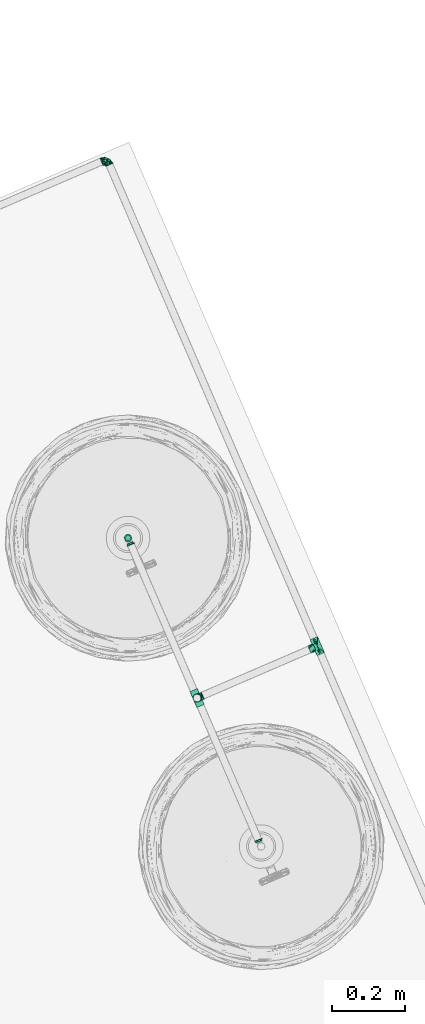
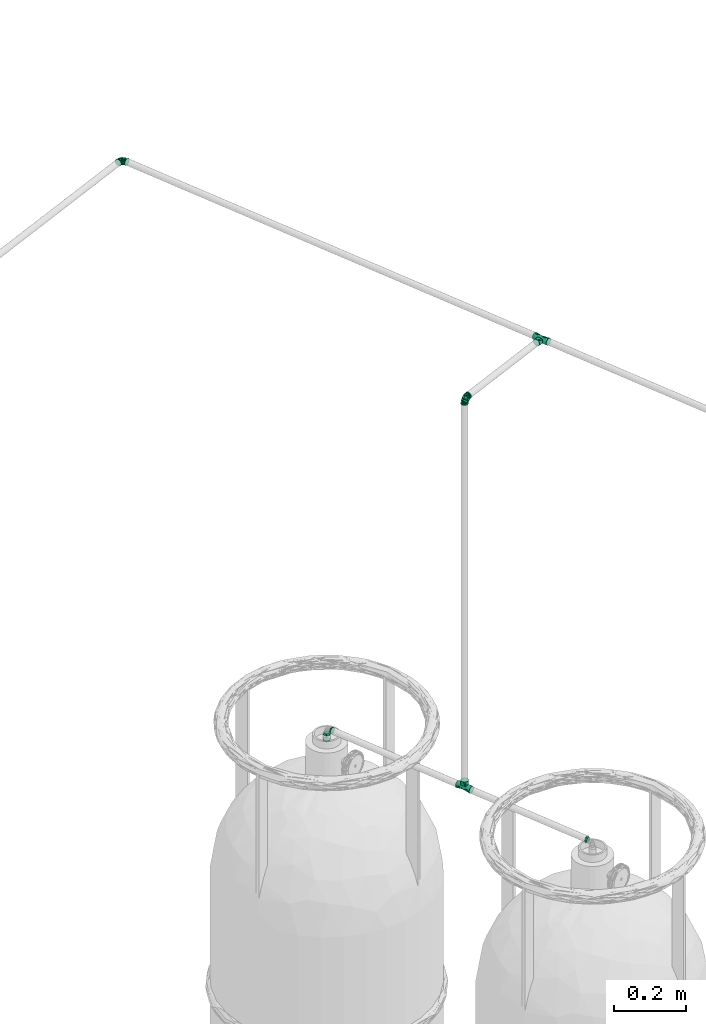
# One storey, part 22 of 26: 8 pipe fittings.
"""IFC4 building model written with IfcOpenShell, lengths in metres."""

from ifc_helpers import new_model, entity, si_unit, converted_unit, derived_unit, direction, frame, origin, place, context, subcontext, project, spatial, polygons, source, transform, mapped, material, type_object, type_shapes, element, save


model = new_model("IFC4")

# Units and contexts
model_context = context("Model", 3, precision=1e-05, world=origin(), true_north=direction((6.12323399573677e-17, 1.0)))
body_context = subcontext(model_context, "Body", "Model", "MODEL_VIEW")
ifc_project = project(units=[si_unit("LENGTHUNIT", "METRE"), si_unit("AREAUNIT", "SQUARE_METRE"), si_unit("VOLUMEUNIT", "CUBIC_METRE"), si_unit("PRESSUREUNIT", "PASCAL"), derived_unit("VOLUMETRICFLOWRATEUNIT", [(si_unit("LENGTHUNIT", "METRE", prefix="DECI"), 3), (si_unit("TIMEUNIT", "SECOND"), -1)]), converted_unit("PLANEANGLEUNIT", "DEGREE", entity("IfcPlaneAngleMeasure", 0.0174532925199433), si_unit("PLANEANGLEUNIT", "RADIAN"), dimensions=[0, 0, 0, 0, 0, 0, 0])], contexts=[model_context])

# Site, building, storey
site_placement = place(None, origin())
site = spatial("IfcSite", under=ifc_project, at=site_placement, Name="Default", CompositionType="ELEMENT")
building_placement = place(site_placement, frame((24.575451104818, -55.896759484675, 317.15), z_axis=(0.0, 0.0, 1.0), x_axis=(-0.396377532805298, 0.918087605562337, 0.0)))
building = spatial("IfcBuilding", under=site, at=building_placement, CompositionType="ELEMENT")
storey_placement = place(building_placement, origin())
storey = spatial("IfcBuildingStorey", under=building, at=storey_placement, Name="Nivel 1", CompositionType="ELEMENT", Elevation=0.0)

# Pipe fittings
ifc_material = material(Name="<Unnamed>")
pipe_fitting_type_1 = type_object("IfcPipeFittingType", Name="M_Codo - Genérico:Norma", PredefinedType="NOTDEFINED", material=ifc_material)
shared_shape_1 = source(origin(), body_context, "Body", "Tessellation", [
    polygons([(-0.0174624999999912, -0.0111125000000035, -1.903728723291e-15), (-0.0174624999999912, -0.0107338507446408, 0.00287612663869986), (-0.0174624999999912, -0.0096237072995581, 0.0055562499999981), (-0.0174624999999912, -0.00785772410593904, 0.00785772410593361), (-0.0174624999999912, -0.00555625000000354, 0.00962370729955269), (-0.0174624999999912, -0.00287612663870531, 0.0107338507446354), (-0.0174624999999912, -3.55315776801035e-15, 0.0111124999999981), (-0.0174624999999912, 0.00287612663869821, 0.0107338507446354), (-0.0174624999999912, 0.00555624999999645, 0.00962370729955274), (-0.0174624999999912, 0.00785772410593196, 0.00785772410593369), (-0.0174624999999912, 0.00962370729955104, 0.00555624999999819), (-0.0174624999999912, 0.0107338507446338, 0.00287612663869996), (-0.0174624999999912, 0.0111124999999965, -1.86782324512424e-15), (-0.0174624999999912, 0.0107338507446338, -0.00287612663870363), (-0.0174624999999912, 0.00962370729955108, -0.00555625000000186), (-0.0174624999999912, 0.00785772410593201, -0.00785772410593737), (-0.0174624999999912, 0.00555624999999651, -0.00962370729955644), (-0.0174624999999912, 0.00287612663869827, -0.0107338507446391), (-0.0174624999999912, -3.48759354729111e-15, -0.0111125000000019), (-0.0174624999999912, -0.00287612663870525, -0.0107338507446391), (-0.0174624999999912, -0.00555625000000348, -0.00962370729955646), (-0.0174624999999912, -0.00785772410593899, -0.0078577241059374), (-0.0174624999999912, -0.00962370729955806, -0.00555625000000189), (-0.0174624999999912, -0.0107338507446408, -0.00287612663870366), (0.0111125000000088, 0.0174624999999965, -1.89879378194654e-15), (0.010733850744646, 0.0174624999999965, -0.00287612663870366), (0.00962370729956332, 0.0174624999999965, -0.00555625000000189), (0.00785772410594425, 0.0174624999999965, -0.0078577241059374), (0.00555625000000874, 0.0174624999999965, -0.00962370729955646), (0.0028761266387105, 0.0174624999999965, -0.0107338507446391), (8.74542105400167e-15, 0.0174624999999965, -0.0111125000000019), (-0.00287612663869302, 0.0174624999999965, -0.0107338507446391), (-0.00555624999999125, 0.0174624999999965, -0.00962370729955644), (-0.00785772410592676, 0.0174624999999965, -0.00785772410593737), (-0.00962370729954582, 0.0174624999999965, -0.00555625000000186), (-0.0107338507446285, 0.0174624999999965, -0.00287612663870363), (-0.0111124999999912, 0.0174624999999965, -1.80588217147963e-15), (-0.0107338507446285, 0.0174624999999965, 0.00287612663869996), (-0.00962370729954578, 0.0174624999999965, 0.00555624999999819), (-0.00785772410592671, 0.0174624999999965, 0.00785772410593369), (-0.00555624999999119, 0.0174624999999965, 0.00962370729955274), (-0.00287612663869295, 0.0174624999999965, 0.0107338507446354), (8.81098527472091e-15, 0.0174624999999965, 0.0111124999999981), (0.00287612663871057, 0.0174624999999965, 0.0107338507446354), (0.0055562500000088, 0.0174624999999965, 0.00962370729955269), (0.0078577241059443, 0.0174624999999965, 0.00785772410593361), (0.00962370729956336, 0.0174624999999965, 0.0055562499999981), (0.010733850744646, 0.0174624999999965, 0.00287612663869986), (-0.0129723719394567, 0.0129723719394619, -1.79601228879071e-15), (-0.00317499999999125, -0.00728417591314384, -1.903728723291e-15), (0.00728417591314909, 0.00317499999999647, -1.903728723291e-15), (-0.0100511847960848, -0.00912664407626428, -1.903728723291e-15), (0.00912664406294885, 0.0100511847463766, -1.903728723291e-15), (-0.013756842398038, -0.0101195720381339, -1.903728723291e-15), (0.0101195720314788, 0.0137568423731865, -1.903728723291e-15), (-0.0156096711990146, -0.0106160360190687, -1.903728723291e-15), (0.0106160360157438, 0.0156096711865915, -1.903728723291e-15), (0.00205458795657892, -0.00205458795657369, -1.903728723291e-15), (-0.00555538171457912, 0.00884629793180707, 0.0107630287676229), (-0.00691389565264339, 0.00169494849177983, 0.011009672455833), (0.00190822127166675, 0.00896555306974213, 0.0104820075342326), (-0.00661309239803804, -0.00820540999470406, -1.903728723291e-15), (-0.00947063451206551, -0.00404538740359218, 0.00966608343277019), (0.00557118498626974, 0.0106586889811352, 0.00897323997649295), (-0.0129388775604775, 0.00860307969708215, 0.00818609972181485), (-0.00836753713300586, 0.00728984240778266, 0.0104364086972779), (-0.00044279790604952, 0.00110833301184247, 0.00926146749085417), (0.004669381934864, 0.00056020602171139, -1.903728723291e-15), (0.00194294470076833, 0.00415442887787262, 0.00930962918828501), (-0.000560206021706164, -0.00466938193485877, -1.903728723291e-15), (0.00820540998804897, 0.00661309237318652, -1.903728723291e-15), (-0.0055553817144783, 0.00884629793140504, -0.0107630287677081), (-0.00691389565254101, 0.00169494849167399, -0.0110096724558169), (0.0019082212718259, 0.00896555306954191, -0.0104820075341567), (-0.00947063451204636, -0.00404538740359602, -0.0096660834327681), (0.00557118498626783, 0.0106586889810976, -0.00897323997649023), (-0.012938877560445, 0.00860307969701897, -0.00818609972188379), (-0.00836753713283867, 0.00728984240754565, -0.010436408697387), (-0.000442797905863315, 0.00110833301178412, -0.00926146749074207), (0.00194294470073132, 0.00415442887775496, -0.00930962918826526)], [[[17, 18, 19, 20, 21, 22, 23, 24, 1, 2, 3, 4, 5, 6, 7, 8, 9, 10, 11, 12, 13, 14, 15, 16]], [[31, 32, 33, 34, 35, 36, 37, 38, 39, 40, 41, 42, 43, 44, 45, 46, 47, 48, 25, 26, 27, 28, 29, 30]], [[2, 56, 3]], [[6, 62, 7]], [[67, 69, 59]], [[39, 61, 40]], [[52, 5, 4]], [[3, 54, 4]], [[10, 63, 60]], [[5, 52, 6]], [[62, 50, 63]], [[63, 9, 8]], [[59, 66, 67]], [[6, 52, 62]], [[62, 63, 7]], [[63, 8, 7]], [[66, 65, 60]], [[44, 64, 53]], [[13, 12, 65]], [[64, 51, 71, 53]], [[2, 1, 56]], [[66, 49, 65]], [[63, 10, 9]], [[60, 50, 70]], [[49, 13, 65]], [[60, 70, 67]], [[51, 64, 61]], [[43, 64, 44]], [[53, 45, 44]], [[61, 69, 51]], [[42, 64, 43]], [[50, 60, 63]], [[55, 46, 53]], [[67, 70, 58, 68]], [[53, 46, 45]], [[51, 69, 68]], [[48, 57, 25]], [[11, 60, 65]], [[69, 61, 59]], [[52, 4, 54]], [[38, 37, 59]], [[67, 68, 69]], [[49, 59, 37]], [[55, 47, 46]], [[38, 59, 39]], [[47, 57, 48]], [[61, 41, 40]], [[56, 54, 3]], [[39, 59, 61]], [[55, 57, 47]], [[61, 64, 41]], [[41, 64, 42]], [[60, 11, 10]], [[60, 67, 66]], [[11, 65, 12]], [[49, 66, 59]], [[62, 19, 75]], [[68, 80, 51]], [[79, 78, 72]], [[73, 75, 16]], [[77, 78, 73]], [[35, 34, 74]], [[73, 16, 15]], [[58, 70, 79, 68]], [[14, 13, 77]], [[78, 49, 72]], [[49, 78, 77]], [[77, 73, 15]], [[56, 1, 24]], [[79, 70, 73]], [[22, 52, 54]], [[20, 19, 62]], [[72, 74, 80]], [[52, 22, 21]], [[21, 20, 52]], [[16, 75, 17]], [[68, 79, 80]], [[52, 20, 62]], [[72, 49, 37]], [[50, 73, 70]], [[37, 36, 72]], [[73, 78, 79]], [[53, 28, 55]], [[35, 72, 36]], [[51, 80, 74]], [[54, 23, 22]], [[76, 33, 32]], [[57, 55, 27]], [[54, 56, 23]], [[33, 74, 34]], [[23, 56, 24]], [[31, 76, 32]], [[53, 76, 30]], [[15, 14, 77]], [[29, 28, 53]], [[53, 30, 29]], [[30, 76, 31]], [[76, 74, 33]], [[27, 26, 57]], [[75, 19, 18]], [[51, 74, 76]], [[35, 74, 72]], [[18, 17, 75]], [[27, 55, 28]], [[50, 75, 73]], [[26, 25, 57]], [[76, 53, 71, 51]], [[75, 50, 62]], [[13, 49, 77]], [[80, 79, 72]]], closed=True),
])
type_shapes(pipe_fitting_type_1, [shared_shape_1])
pipe_fitting_1_placement = place(storey_placement, frame((22.0687146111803, 38.0573549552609, 3.0), z_axis=(1.0, 0.0, 0.0), x_axis=(0.0, 0.0, 1.0)))
element("IfcPipeFitting", 1, at=pipe_fitting_1_placement, inside=storey, type_object=pipe_fitting_type_1, material=ifc_material, Name="M_Codo - Genérico:Norma", ObjectType="M_Codo - Genérico:Norma", PredefinedType="NOTDEFINED", context=body_context, shape_type="MappedRepresentation", body=[
    mapped(shared_shape_1, transform((0.0, 0.0, 0.0), scale=1.0)),
])
pipe_fitting_2_placement = place(storey_placement, frame((23.5212669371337, 37.6988315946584, 3.0)))
element("IfcPipeFitting", 2, at=pipe_fitting_2_placement, inside=storey, type_object=pipe_fitting_type_1, material=ifc_material, Name="M_Codo - Genérico:Norma", ObjectType="M_Codo - Genérico:Norma", PredefinedType="NOTDEFINED", context=body_context, shape_type="MappedRepresentation", body=[
    mapped(shared_shape_1, transform((0.0, 0.0, 0.0), scale=1.0)),
])
pipe_fitting_type_2 = type_object("IfcPipeFittingType", Name="M_Te - Genérica:Norma", PredefinedType="NOTDEFINED", material=ifc_material)
shared_shape_2 = source(origin(), body_context, "Body", "Tessellation", [
    polygons([(-0.0238124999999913, -0.0111125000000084, -1.903728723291e-15), (-0.0238124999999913, -0.0107338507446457, 0.00287612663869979), (-0.0238124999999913, -0.00962370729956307, 0.00555624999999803), (-0.0238124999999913, -0.00785772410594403, 0.00785772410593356), (-0.0238124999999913, -0.00555625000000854, 0.00962370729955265), (-0.0238124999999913, -0.00287612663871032, 0.0107338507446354), (-0.0238124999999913, -8.56023581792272e-15, 0.0111124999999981), (-0.0238124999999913, 0.0028761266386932, 0.0107338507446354), (-0.0238124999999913, 0.00555624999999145, 0.00962370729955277), (-0.0238124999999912, 0.00785772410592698, 0.00785772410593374), (-0.0238124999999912, 0.00962370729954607, 0.00555624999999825), (-0.0238124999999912, 0.0107338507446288, 0.00287612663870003), (-0.0238124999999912, 0.0111124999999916, -1.79601228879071e-15), (-0.0238124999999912, 0.0107338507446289, -0.00287612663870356), (-0.0238124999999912, 0.00962370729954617, -0.0055562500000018), (-0.0238124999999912, 0.00785772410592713, -0.00785772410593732), (-0.0238124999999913, 0.00555624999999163, -0.0096237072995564), (-0.0238124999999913, 0.00287612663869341, -0.0107338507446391), (-0.0238124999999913, -8.35739460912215e-15, -0.0111125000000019), (-0.0238124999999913, -0.00287612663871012, -0.0107338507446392), (-0.0238124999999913, -0.00555625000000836, -0.00962370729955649), (-0.0238124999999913, -0.00785772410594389, -0.00785772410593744), (-0.0238124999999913, -0.00962370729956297, -0.00555625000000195), (-0.0238124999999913, -0.0107338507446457, -0.00287612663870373), (0.0238125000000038, -0.0111125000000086, -1.97060473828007e-15), (0.0238125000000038, -0.0107338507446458, -0.00287612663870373), (0.0238125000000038, -0.00962370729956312, -0.00555625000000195), (0.0238125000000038, -0.00785772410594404, -0.00785772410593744), (0.0238125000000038, -0.00555625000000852, -0.00962370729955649), (0.0238125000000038, -0.00287612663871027, -0.0107338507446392), (0.0238125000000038, -8.51041926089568e-15, -0.0111125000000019), (0.0238125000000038, 0.00287612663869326, -0.0107338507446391), (0.0238125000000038, 0.00555624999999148, -0.0096237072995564), (0.0238125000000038, 0.00785772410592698, -0.00785772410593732), (0.0238125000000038, 0.00962370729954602, -0.0055562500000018), (0.0238125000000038, 0.0107338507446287, -0.00287612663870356), (0.0238125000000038, 0.0111124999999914, -1.7367929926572e-15), (0.0238125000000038, 0.0107338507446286, 0.00287612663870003), (0.0238125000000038, 0.00962370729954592, 0.00555624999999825), (0.0238125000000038, 0.00785772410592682, 0.00785772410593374), (0.0238125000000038, 0.0055562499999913, 0.00962370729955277), (0.0238125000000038, 0.00287612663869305, 0.0107338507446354), (0.0238125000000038, -8.71326046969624e-15, 0.0111124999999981), (0.0238125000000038, -0.00287612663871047, 0.0107338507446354), (0.0238125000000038, -0.00555625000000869, 0.00962370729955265), (0.0238125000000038, -0.00785772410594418, 0.00785772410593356), (0.0238125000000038, -0.00962370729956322, 0.00555624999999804), (0.0238125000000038, -0.0107338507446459, 0.00287612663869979), (-0.0111124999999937, -0.0111125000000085, -1.903728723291e-15), (-0.0107094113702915, -0.0107094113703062, 0.00296583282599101), (-0.00961793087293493, -0.00961793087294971, 0.00556624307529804), (-0.00806374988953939, -0.00806374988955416, 0.00764614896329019), (-0.00622834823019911, -0.00622834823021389, 0.00920300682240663), (-0.00422731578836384, -0.00422731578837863, 0.0102770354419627), (-0.0021338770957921, -0.00213387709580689, 0.0109056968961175), (6.2730154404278e-15, -8.61700837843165e-15, 0.0111124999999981), (0.00213387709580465, -0.00213387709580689, 0.0109056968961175), (0.0042273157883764, -0.00422731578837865, 0.0102770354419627), (0.00622834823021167, -0.00622834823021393, 0.00920300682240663), (0.00806374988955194, -0.0080637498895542, 0.0076461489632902), (0.00961793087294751, -0.00961793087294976, 0.00556624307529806), (0.010709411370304, -0.0107094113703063, 0.00296583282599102), (0.0111125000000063, -0.0111125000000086, -1.89879378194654e-15), (0.010709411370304, -0.0107094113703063, -0.00296583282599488), (0.00961793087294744, -0.00961793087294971, -0.00556624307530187), (0.00806374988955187, -0.00806374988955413, -0.00764614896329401), (0.00622834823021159, -0.00622834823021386, -0.00920300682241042), (0.00422731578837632, -0.00422731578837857, -0.0102770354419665), (0.00213387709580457, -0.00213387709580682, -0.0109056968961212), (6.2730154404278e-15, -8.46351658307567e-15, -0.0111125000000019), (-0.00213387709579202, -0.0021338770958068, -0.0109056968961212), (-0.00422731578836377, -0.00422731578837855, -0.0102770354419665), (-0.00622834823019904, -0.00622834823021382, -0.00920300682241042), (-0.00806374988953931, -0.00806374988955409, -0.007646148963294), (-0.00961793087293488, -0.00961793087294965, -0.00556624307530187), (-0.0107094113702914, -0.0107094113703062, -0.00296583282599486), (-0.0111124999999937, -0.0238125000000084, -1.89879378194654e-15), (-0.010733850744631, -0.0238125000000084, -0.00287612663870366), (-0.00962370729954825, -0.0238125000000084, -0.00555625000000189), (-0.00785772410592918, -0.0238125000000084, -0.0078577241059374), (-0.00555624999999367, -0.0238125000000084, -0.00962370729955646), (-0.00287612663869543, -0.0238125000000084, -0.0107338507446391), (6.32632078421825e-15, -0.0238125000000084, -0.0111125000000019), (0.00287612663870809, -0.0238125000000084, -0.0107338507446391), (0.00555625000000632, -0.0238125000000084, -0.00962370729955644), (0.00785772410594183, -0.0238125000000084, -0.00785772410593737), (0.00962370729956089, -0.0238125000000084, -0.00555625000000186), (0.0107338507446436, -0.0238125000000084, -0.00287612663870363), (0.0111125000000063, -0.0238125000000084, -1.7367929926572e-15), (0.0107338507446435, -0.0238125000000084, 0.00287612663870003), (0.00962370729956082, -0.0238125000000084, 0.00555624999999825), (0.00785772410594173, -0.0238125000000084, 0.00785772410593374), (0.0055562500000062, -0.0238125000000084, 0.00962370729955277), (0.00287612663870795, -0.0238125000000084, 0.0107338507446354), (6.19035559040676e-15, -0.0238125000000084, 0.0111124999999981), (-0.00287612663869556, -0.0238125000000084, 0.0107338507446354), (-0.00555624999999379, -0.0238125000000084, 0.00962370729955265), (-0.00785772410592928, -0.0238125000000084, 0.00785772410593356), (-0.00962370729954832, -0.0238125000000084, 0.00555624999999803), (-0.010733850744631, -0.0238125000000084, 0.00287612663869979)], [[[19, 20, 21, 22, 23, 24, 1, 2, 3, 4, 5, 6, 7, 8, 9, 10, 11, 12, 13, 14, 15, 16, 17, 18]], [[32, 33, 34, 35, 36, 37, 38, 39, 40, 41, 42, 43, 44, 45, 46, 47, 48, 25, 26, 27, 28, 29, 30, 31]], [[25, 48, 63]], [[49, 2, 1]], [[48, 62, 63]], [[62, 48, 47]], [[62, 47, 61]], [[46, 45, 60]], [[60, 61, 46]], [[59, 60, 45]], [[46, 61, 47]], [[49, 50, 2]], [[2, 50, 3]], [[50, 51, 3]], [[52, 53, 5]], [[52, 4, 51]], [[4, 52, 5]], [[51, 4, 3]], [[5, 53, 6]], [[44, 59, 45]], [[44, 43, 58]], [[43, 57, 58]], [[57, 43, 42]], [[56, 57, 42]], [[44, 58, 59]], [[41, 40, 56]], [[56, 39, 38]], [[39, 56, 40]], [[42, 41, 56]], [[56, 38, 37]], [[7, 55, 8]], [[54, 7, 6]], [[7, 54, 55]], [[54, 6, 53]], [[55, 56, 8]], [[56, 12, 11]], [[11, 10, 56]], [[9, 8, 56]], [[56, 10, 9]], [[12, 56, 13]], [[56, 37, 13]], [[36, 70, 37]], [[34, 70, 35]], [[70, 36, 35]], [[70, 34, 33]], [[32, 31, 69]], [[31, 68, 69]], [[68, 31, 30]], [[68, 30, 67]], [[33, 32, 70]], [[69, 70, 32]], [[70, 17, 16]], [[14, 70, 15]], [[16, 15, 70]], [[70, 14, 13]], [[70, 71, 18]], [[71, 19, 18]], [[20, 19, 72]], [[72, 19, 71]], [[70, 18, 17]], [[13, 37, 70]], [[29, 28, 66]], [[66, 67, 29]], [[65, 66, 28]], [[28, 27, 65]], [[27, 26, 64]], [[26, 63, 64]], [[63, 26, 25]], [[24, 49, 1]], [[27, 64, 65]], [[73, 21, 20]], [[21, 74, 22]], [[74, 21, 73]], [[22, 74, 75]], [[73, 20, 72]], [[76, 49, 24]], [[75, 76, 23]], [[76, 24, 23]], [[75, 23, 22]], [[67, 30, 29]], [[83, 84, 85, 86, 87, 88, 89, 90, 91, 92, 93, 94, 95, 96, 97, 98, 99, 100, 77, 78, 79, 80, 81, 82]], [[100, 49, 77]], [[99, 50, 100]], [[51, 98, 97]], [[97, 96, 51]], [[99, 98, 50]], [[95, 52, 96]], [[50, 49, 100]], [[51, 50, 98]], [[60, 59, 53, 52]], [[58, 57, 55, 54]], [[54, 53, 59, 58]], [[51, 96, 52]], [[95, 60, 52]], [[93, 61, 94]], [[92, 61, 93]], [[62, 91, 90]], [[89, 63, 90]], [[92, 91, 62]], [[62, 90, 63]], [[56, 55, 57]], [[62, 61, 92]], [[61, 60, 94]], [[60, 95, 94]], [[88, 63, 89]], [[87, 64, 88]], [[65, 86, 85]], [[85, 84, 65]], [[87, 86, 64]], [[83, 66, 84]], [[64, 63, 88]], [[65, 64, 86]], [[74, 73, 67, 66]], [[72, 71, 69, 68]], [[68, 67, 73, 72]], [[65, 84, 66]], [[83, 74, 66]], [[81, 75, 82]], [[80, 75, 81]], [[76, 79, 78]], [[77, 49, 78]], [[80, 79, 76]], [[76, 78, 49]], [[70, 69, 71]], [[76, 75, 80]], [[75, 74, 82]], [[74, 83, 82]]], closed=True),
])
type_shapes(pipe_fitting_type_2, [shared_shape_2])
for number, where, z_axis, x_axis in (
    (3, (22.0687146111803, 38.0573549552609, 1.68190000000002), (0.0, 1.0, 0.0), (1.0, 0.0, 0.0)),
    (4, (22.0687146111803, 37.6988315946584, 3.0), (0.0, 0.0, 1.0), (-1.0, 0.0, 0.0)),
):
    element("IfcPipeFitting", number, at=place(storey_placement, frame(where, z_axis=z_axis, x_axis=x_axis)), inside=storey, type_object=pipe_fitting_type_2, material=ifc_material, Name="M_Te - Genérica:Norma", ObjectType="M_Te - Genérica:Norma", PredefinedType="NOTDEFINED", context=body_context, shape_type="MappedRepresentation", body=[
        mapped(shared_shape_2, transform((0.0, 0.0, 0.0), scale=1.0)),
    ])
pipe_fitting_type_3 = type_object("IfcPipeFittingType", Name="M_Transición - Genérica:Norma", PredefinedType="NOTDEFINED", material=ifc_material)
shared_shape_3 = source(origin(), body_context, "Body", "Tessellation", [
    polygons([(0.00555625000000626, -0.0111125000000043, 5.58772677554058e-15), (0.00555625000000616, -0.00555625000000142, -0.00962370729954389), (0.00555625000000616, 0.00555624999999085, -0.00962370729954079), (0.00555625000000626, 0.0111124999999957, 5.55182129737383e-15), (0.00555625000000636, 0.00555624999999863, 0.00962370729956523), (0.00555625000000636, -0.00555625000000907, 0.0096237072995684), (6.26381199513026e-15, -0.00808750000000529, 2.2539862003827e-17), (6.33577987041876e-15, -0.00404375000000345, 0.00700398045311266), (6.33577987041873e-15, 0.00404375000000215, 0.00700398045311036), (6.26381199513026e-15, 0.0080874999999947, -4.50797240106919e-17), (6.1918441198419e-15, 0.00404374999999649, -0.00700398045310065), (6.19184411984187e-15, -0.00404374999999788, -0.00700398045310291)], [[[5, 6, 1, 2, 3, 4]], [[7, 8, 9, 10, 11, 12]], [[7, 12, 2, 1]], [[12, 11, 3, 2]], [[11, 10, 4, 3]], [[10, 9, 5, 4]], [[9, 8, 6, 5]], [[8, 7, 1, 6]]], closed=True),
])
type_shapes(pipe_fitting_type_3, [shared_shape_3])
pipe_fitting_3_placement = place(storey_placement, frame((22.5313721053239, 38.0573549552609, 1.68190000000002), z_axis=(0.0, 0.0, 1.0), x_axis=(-1.0, 0.0, 0.0)))
element("IfcPipeFitting", 5, at=pipe_fitting_3_placement, inside=storey, type_object=pipe_fitting_type_3, material=ifc_material, Name="M_Transición - Genérica:Norma", ObjectType="M_Transición - Genérica:Norma", PredefinedType="NOTDEFINED", context=body_context, shape_type="MappedRepresentation", body=[
    mapped(shared_shape_3, transform((0.0, 0.0, 0.0), scale=1.0)),
])
pipe_fitting_4_placement = place(storey_placement, frame((21.6402471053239, 38.0573549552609, 1.68190000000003)))
element("IfcPipeFitting", 6, at=pipe_fitting_4_placement, inside=storey, type_object=pipe_fitting_type_3, material=ifc_material, Name="M_Transición - Genérica:Norma", ObjectType="M_Transición - Genérica:Norma", PredefinedType="NOTDEFINED", context=body_context, shape_type="MappedRepresentation", body=[
    mapped(shared_shape_3, transform((0.0, 0.0, 0.0), scale=1.0)),
])
for number, where, z_axis, x_axis in (
    (7, (22.5458096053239, 38.0573549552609, 1.63900133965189), (0.0, -1.0, 0.0), (0.0, 0.0, 1.0)),
    (8, (22.5458096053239, 38.0573549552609, 1.66746250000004), (0.0, -1.0, 0.0), (0.0, 0.0, -1.0)),
):
    element("IfcPipeFitting", number, at=place(storey_placement, frame(where, z_axis=z_axis, x_axis=x_axis)), inside=storey, type_object=pipe_fitting_type_3, material=ifc_material, Name="M_Transición - Genérica:Norma", ObjectType="M_Transición - Genérica:Norma", PredefinedType="NOTDEFINED", context=body_context, shape_type="MappedRepresentation", body=[
        mapped(shared_shape_3, transform((0.0, 0.0, 0.0), scale=1.0)),
    ])

save(model, "model.ifc")
